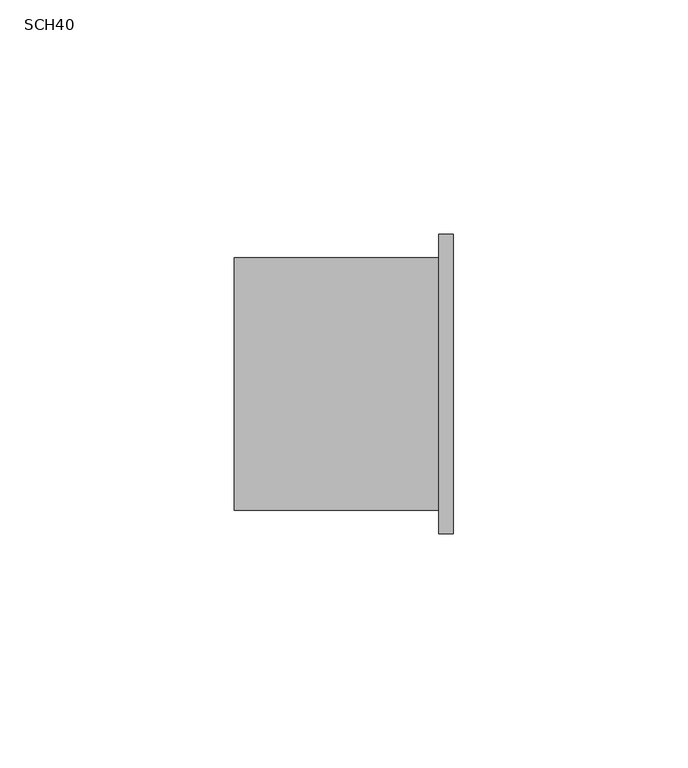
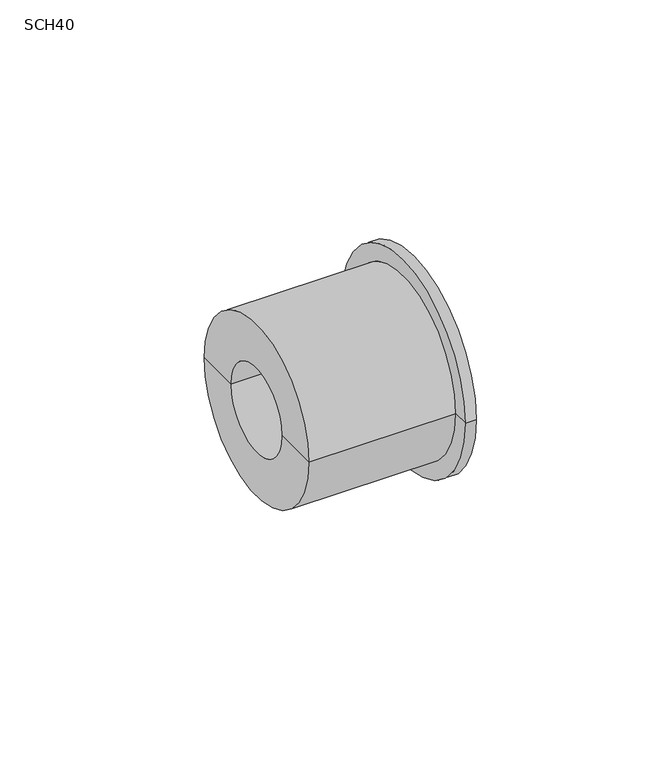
"""IFC4 building model written with IfcOpenShell, lengths in millimetres: pipe fitting geometry, PavcoWavin_UnionesDeTuberia_CpvcZNoUsarBuje : SCH40."""

from ifc_helpers import new_model, si_unit, frame, origin, place, context, project, spatial, polyline, circle_curve, source, transform, mapped, element, save
from ifc_brep_helpers import plane_surface, cylinder_surface, revolved_surface, advanced_brep


def sch40_0889392d(model_context):
    return source(origin(), model_context, "Body", "AdvancedBrep", [
        advanced_brep(
        [(-14.2737202, -13.29, 0.0), (-14.2737202, 13.29, 0.0), (-14.2737202, 26.99, 0.0), (-14.2737202, -26.99, 0.0), (8.6962798, -14.29, 0.0), (8.6962798, 14.29, 0.0), (8.6962798, 13.29, 0.0), (8.6962798, -13.29, 0.0), (32.5562798, -14.29, 0.0), (32.5562798, 14.29, 0.0), (32.5562798, -32.0, 0.0), (32.5562798, 32.0, 0.0), (29.4062798, -32.0, 0.0), (29.4062798, 32.0, 0.0), (29.4062798, -26.99, 0.0), (29.4062798, 26.99, 0.0)],
        [
            (0, 1, circle_curve(frame((-14.2737202, 0.0, 0.0), z_axis=(1.0, 0.0, 0.0), x_axis=(0.0, 1.0, 0.0)), 13.29)),
            (1, 2),
            (2, 3, circle_curve(frame((-14.2737202, 0.0, 0.0), z_axis=(-1.0, 0.0, 0.0), x_axis=(0.0, 1.0, 0.0)), 26.99)),
            (3, 0),
            (1, 0, circle_curve(frame((-14.2737202, 0.0, 0.0), z_axis=(1.0, 0.0, 0.0), x_axis=(0.0, 1.0, 0.0)), 13.29)),
            (3, 2, circle_curve(frame((-14.2737202, 0.0, 0.0), z_axis=(-1.0, 0.0, 0.0), x_axis=(0.0, 1.0, 0.0)), 26.99)),
            (4, 5, circle_curve(frame((8.6962798, 0.0, 0.0), z_axis=(1.0, 0.0, 0.0), x_axis=(0.0, 1.0, 0.0)), 14.29)),
            (5, 6),
            (6, 7, circle_curve(frame((8.6962798, 0.0, 0.0), z_axis=(-1.0, 0.0, 0.0), x_axis=(0.0, 1.0, 0.0)), 13.29)),
            (7, 4),
            (5, 4, circle_curve(frame((8.6962798, 0.0, 0.0), z_axis=(1.0, 0.0, 0.0), x_axis=(0.0, 1.0, 0.0)), 14.29)),
            (7, 6, circle_curve(frame((8.6962798, 0.0, 0.0), z_axis=(-1.0, 0.0, 0.0), x_axis=(0.0, 1.0, 0.0)), 13.29)),
            (8, 9, circle_curve(frame((32.5562798, 0.0, 0.0), z_axis=(1.0, 0.0, 0.0), x_axis=(0.0, 1.0, 0.0)), 14.29)),
            (9, 5),
            (4, 8),
            (9, 8, circle_curve(frame((32.5562798, 0.0, 0.0), z_axis=(1.0, 0.0, 0.0), x_axis=(0.0, 1.0, 0.0)), 14.29)),
            (10, 11, circle_curve(frame((32.5562798, 0.0, 0.0), z_axis=(1.0, 0.0, 0.0), x_axis=(0.0, 1.0, 0.0)), 32.0)),
            (11, 9),
            (8, 10),
            (11, 10, circle_curve(frame((32.5562798, 0.0, 0.0), z_axis=(1.0, 0.0, 0.0), x_axis=(0.0, 1.0, 0.0)), 32.0)),
            (12, 13, circle_curve(frame((29.4062798, 0.0, 0.0), z_axis=(1.0, 0.0, 0.0), x_axis=(0.0, 1.0, 0.0)), 32.0)),
            (13, 11),
            (10, 12),
            (13, 12, circle_curve(frame((29.4062798, 0.0, 0.0), z_axis=(1.0, 0.0, 0.0), x_axis=(0.0, 1.0, 0.0)), 32.0)),
            (14, 15, circle_curve(frame((29.4062798, 0.0, 0.0), z_axis=(1.0, 0.0, 0.0), x_axis=(0.0, 1.0, 0.0)), 26.99)),
            (15, 13),
            (12, 14),
            (15, 14, circle_curve(frame((29.4062798, 0.0, 0.0), z_axis=(1.0, 0.0, 0.0), x_axis=(0.0, 1.0, 0.0)), 26.99)),
            (2, 15),
            (14, 3),
            (6, 1),
            (0, 7),
        ],
        [
            plane_surface(frame((-14.2737202, 0.0, 0.0), z_axis=(-1.0, 0.0, 0.0), x_axis=(0.0, 1.0, 0.0))),
            plane_surface(frame((8.6962798, 0.0, 0.0), z_axis=(1.0, 0.0, 0.0), x_axis=(0.0, 1.0, 0.0))),
            revolved_surface(polyline([(8.696279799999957, 14.29, 0.0), (32.556279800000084, 14.29, 0.0)]), (2010.2012798, 0.0, 0.0), (-1.0, 0.0, 0.0)),
            plane_surface(frame((32.5562798, 0.0, 0.0), z_axis=(1.0, 0.0, 0.0), x_axis=(0.0, 1.0, 0.0))),
            cylinder_surface(frame((2010.2012798, 0.0, 0.0), z_axis=(-1.0, 0.0, 0.0), x_axis=(0.0, 1.0, 0.0)), 32.0),
            plane_surface(frame((29.4062798, 0.0, 0.0), z_axis=(-1.0, 0.0, 0.0), x_axis=(0.0, 1.0, 0.0))),
            cylinder_surface(frame((2010.2012798, 0.0, 0.0), z_axis=(-1.0, 0.0, 0.0), x_axis=(0.0, 1.0, 0.0)), 26.99),
            revolved_surface(polyline([(-14.27372020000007, 13.29, 0.0), (8.696279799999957, 13.29, 0.0)]), (2010.2012798, 0.0, 0.0), (-1.0, 0.0, 0.0)),
        ],
        [
            (0, [[1, 2, 3, 4]]),
            (0, [[5, -4, 6, -2]]),
            (1, [[7, 8, 9, 10]]),
            (1, [[11, -10, 12, -8]]),
            (2, [[13, 14, -7, 15]]),
            (2, [[16, -15, -11, -14]]),
            (3, [[17, 18, -13, 19]]),
            (3, [[20, -19, -16, -18]]),
            (4, [[21, 22, -17, 23]]),
            (4, [[24, -23, -20, -22]]),
            (5, [[25, 26, -21, 27]]),
            (5, [[28, -27, -24, -26]]),
            (6, [[-3, 29, -25, 30]]),
            (6, [[-6, -30, -28, -29]]),
            (7, [[-9, 31, -1, 32]]),
            (7, [[-12, -32, -5, -31]]),
        ],
    ),
    ])


if __name__ == "__main__":
    model = new_model("IFC4")
    model_context = context("Model", 3, world=origin())
    ifc_project = project(units=[si_unit("LENGTHUNIT", "METRE", prefix="MILLI")], contexts=[model_context])
    site = spatial("IfcSite", under=ifc_project)
    building = spatial("IfcBuilding", under=site)
    placement = place(None, origin())
    sch40_shape = sch40_0889392d(model_context)
    element("IfcPipeFitting", 1, ObjectType="PavcoWavin_UnionesDeTuberia_CpvcZNoUsarBuje : SCH40", at=placement, inside=building, context=model_context, shape_type="MappedRepresentation", body=[
        mapped(sch40_shape, transform((0.0, 0.0, 0.0), x_axis=(1.0, 0.0, 0.0), y_axis=(0.0, 1.0, 0.0), z_axis=(0.0, 0.0, 1.0))),
    ])
    save(model, "model.ifc")
